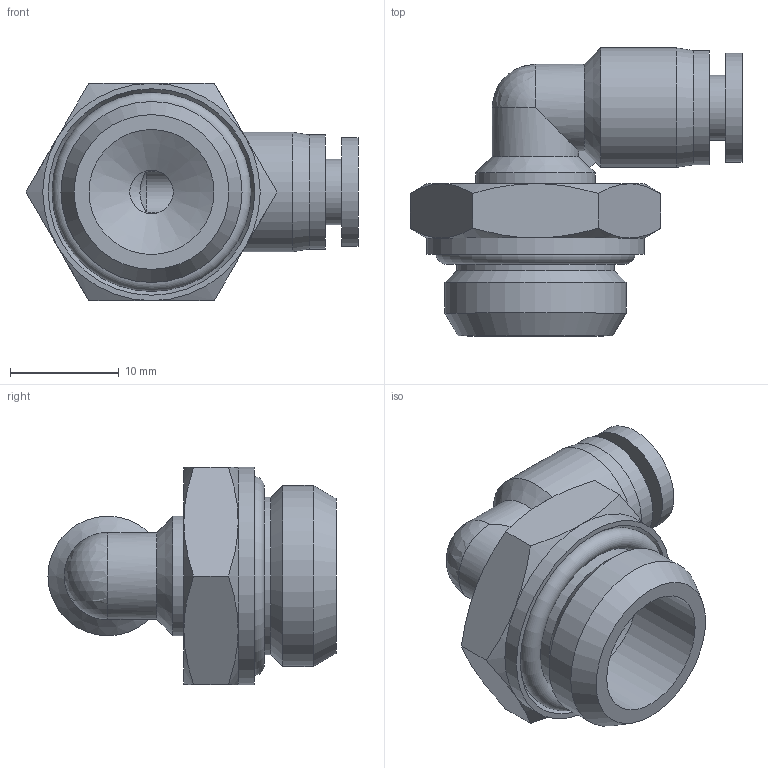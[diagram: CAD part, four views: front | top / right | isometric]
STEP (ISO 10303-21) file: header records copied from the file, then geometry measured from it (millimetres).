
FILE_DESCRIPTION(/* description */ (''),/* implementation_level */ '2;1');
FILE_NAME(/* name */ 'C:\Users\UfficioTecnico\Desktop\3D\RP723804.stp',/* time_stamp */ '2019-08-28T16:22:21+02:00',/* author */ ('UfficioTecnico'),/* organization */ (''),/* preprocessor_version */ 'ST-DEVELOPER v18',/* originating_system */ 'Autodesk Inventor 2020',/* authorisation */ '');
FILE_SCHEMA (('AUTOMOTIVE_DESIGN { 1 0 10303 214 3 1 1 }'));
Length unit declared in the file: millimetre
Products named in the file (1): RP723804
Bounding box: 30.55 x 26.5 x 20 mm (x, y, z)
Volume: 4263.1 mm3; surface area: 3410.9 mm2
Topology: 2 solids, 2 shells, 63 faces, 155 edges, 98 vertices
Faces by surface type: cone 25, cylinder 18, plane 17, torus 2, sphere 1
Full cylindrical faces by diameter (mm): 4 x2, 6 x1, 10 x1, 10.5 x1, 11 x2, 11.5 x1, 14.5 x2, 16.662 x1, 20 x1
Entity records: 1915 total; most frequent: CARTESIAN_POINT 412, DIRECTION 329, ORIENTED_EDGE 306, EDGE_CURVE 153, AXIS2_PLACEMENT_3D 149, VERTEX_POINT 98, CIRCLE 75, EDGE_LOOP 71
